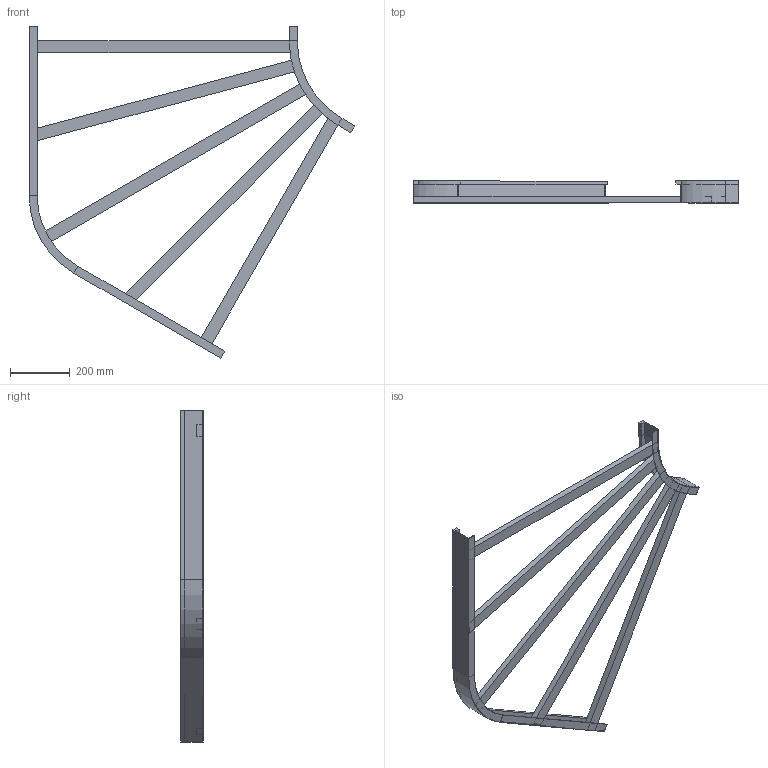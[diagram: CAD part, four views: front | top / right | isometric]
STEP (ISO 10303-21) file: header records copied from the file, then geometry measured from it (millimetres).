
FILE_DESCRIPTION (( 'STEP AP214' ), '1' );
FILE_NAME ('B2_13B3C900.step', '2025-02-21T15:22:05', ( '' ), ( '' ), 'SwSTEP 2.0', 'SolidWorks 2023', '' );
FILE_SCHEMA (( 'AUTOMOTIVE_DESIGN' ));
Length unit declared in the file: millimetre
Products named in the file (6): B2_13B3C900; TRAVERSINO_1000_SCANTONATO; TRAVERSINO_L1033; B2_LONGH.INTERNO 60°_H75_R300; B2_LONGH.ESTERNO 60°_H75_R300+900; TRAVERSINO_900
Assembly tree (7 placements, depth 2):
  B2_13B3C900
    B2_LONGH.INTERNO 60°_H75_R300
    B2_LONGH.ESTERNO 60°_H75_R300+900
    TRAVERSINO_900  x2
    TRAVERSINO_1000_SCANTONATO  x2
    TRAVERSINO_L1033
Bounding box: 1093.3 x 75 x 1114.23 mm (x, y, z)
Volume: 4535839.2 mm3; surface area: 1018684.3 mm2
Topology: 7 solids, 7 shells, 82 faces, 172 edges, 104 vertices
Faces by surface type: plane 74, cylinder 8
Entity records: 2015 total; most frequent: DIRECTION 324, CARTESIAN_POINT 316, ORIENTED_EDGE 296, EDGE_CURVE 148, LINE 132, VECTOR 132, AXIS2_PLACEMENT_3D 96, VERTEX_POINT 88
